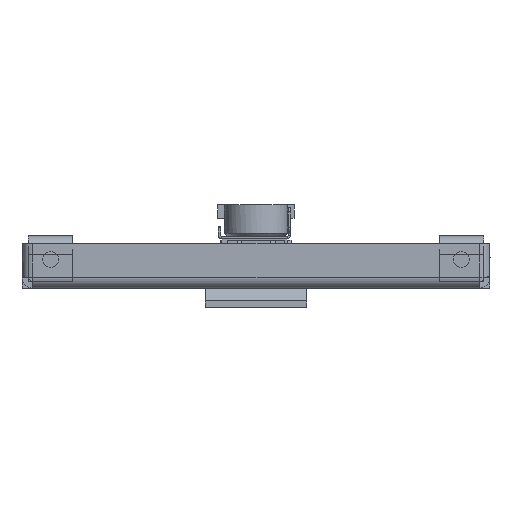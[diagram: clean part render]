
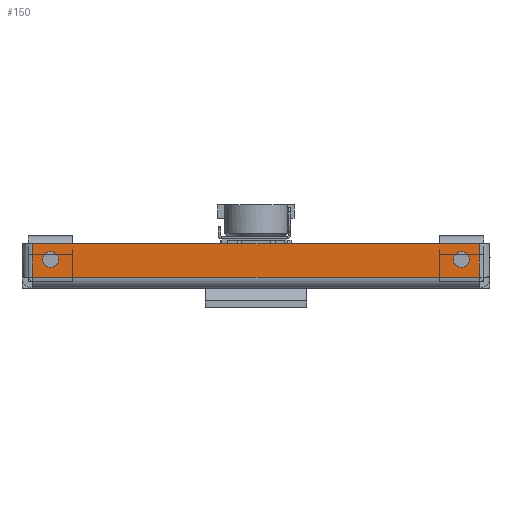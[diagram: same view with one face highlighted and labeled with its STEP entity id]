
A CAD part, left-side view. The second image highlights one B-rep face of the part: STEP entity #150.
In plain terms, the highlighted planar face has unit normal (-1, 0, 0).
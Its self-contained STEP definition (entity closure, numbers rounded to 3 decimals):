
#150=ADVANCED_FACE('',(#799,#801,#803),#805,.F.);
#799=FACE_BOUND('',#800,.T.);
#800=EDGE_LOOP('',(#3544,#3545,#3546,#3547));
#801=FACE_BOUND('',#802,.T.);
#802=EDGE_LOOP('',(#3548));
#803=FACE_BOUND('',#804,.T.);
#804=EDGE_LOOP('',(#3549));
#805=PLANE('',#806);
#806=AXIS2_PLACEMENT_3D('',#807,#808,#809);
#807=CARTESIAN_POINT('',(-293.2,0.,0.));
#808=DIRECTION('',(1.,0.,0.));
#809=DIRECTION('',(0.,0.,-1.));
#3544=ORIENTED_EDGE('',*,*,#5325,.F.);
#3545=ORIENTED_EDGE('',*,*,#5327,.F.);
#3546=ORIENTED_EDGE('',*,*,#5328,.F.);
#3547=ORIENTED_EDGE('',*,*,#5329,.F.);
#3548=ORIENTED_EDGE('',*,*,#5142,.T.);
#3549=ORIENTED_EDGE('',*,*,#5144,.F.);
#5142=EDGE_CURVE('',#6064,#6064,#6065,.T.);
#5144=EDGE_CURVE('',#6068,#6068,#6069,.T.);
#5325=EDGE_CURVE('',#6370,#6363,#6374,.T.);
#5327=EDGE_CURVE('',#6376,#6370,#6377,.T.);
#5328=EDGE_CURVE('',#6378,#6376,#6379,.T.);
#5329=EDGE_CURVE('',#6363,#6378,#6380,.T.);
#6064=VERTEX_POINT('',#7582);
#6065=CIRCLE('',#7583,2.5);
#6068=VERTEX_POINT('',#7592);
#6069=CIRCLE('',#7593,2.5);
#6363=VERTEX_POINT('',#8344);
#6370=VERTEX_POINT('',#8364);
#6374=LINE('',#8375,#8376);
#6376=VERTEX_POINT('',#8381);
#6377=LINE('',#8382,#8383);
#6378=VERTEX_POINT('',#8385);
#6379=LINE('',#8386,#8387);
#6380=LINE('',#8389,#8390);
#7582=CARTESIAN_POINT('',(-293.2,-64.5,11.5));
#7583=AXIS2_PLACEMENT_3D('',#7584,#7585,#7586);
#7584=CARTESIAN_POINT('',(-293.2,-64.5,9.));
#7585=DIRECTION('',(1.,0.,0.));
#7586=DIRECTION('',(0.,0.,1.));
#7592=CARTESIAN_POINT('',(-293.2,64.5,11.5));
#7593=AXIS2_PLACEMENT_3D('',#7594,#7595,#7596);
#7594=CARTESIAN_POINT('',(-293.2,64.5,9.));
#7595=DIRECTION('',(-1.,0.,0.));
#7596=DIRECTION('',(0.,0.,1.));
#8344=CARTESIAN_POINT('',(-293.2,70.1,3.4));
#8364=CARTESIAN_POINT('',(-293.2,-70.1,3.4));
#8375=CARTESIAN_POINT('',(-293.2,-70.1,3.4));
#8376=VECTOR('',#8377,1.);
#8377=DIRECTION('',(0.,1.,0.));
#8381=CARTESIAN_POINT('',(-293.2,-70.1,14.));
#8382=CARTESIAN_POINT('',(-293.2,-70.1,14.));
#8383=VECTOR('',#8384,1.);
#8384=DIRECTION('',(0.,0.,-1.));
#8385=CARTESIAN_POINT('',(-293.2,70.1,14.));
#8386=CARTESIAN_POINT('',(-293.2,70.1,14.));
#8387=VECTOR('',#8388,1.);
#8388=DIRECTION('',(0.,-1.,0.));
#8389=CARTESIAN_POINT('',(-293.2,70.1,3.4));
#8390=VECTOR('',#8391,1.);
#8391=DIRECTION('',(0.,0.,1.));
